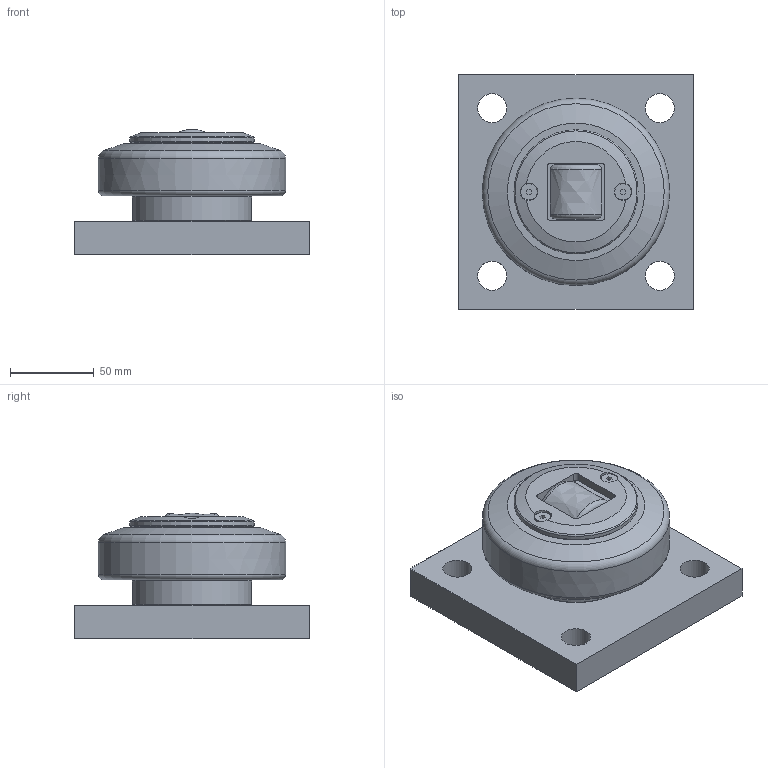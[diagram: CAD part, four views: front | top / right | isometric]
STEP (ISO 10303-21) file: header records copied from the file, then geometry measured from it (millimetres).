
FILE_DESCRIPTION(/* description */ ('-','CAx-IF Rec.Pracs.---Representation and Presentation of Product Manufacturing Information (PMI)---4.0---2014-10-13'),/* implementation_level */ '2;1');
FILE_NAME(/* name */ 'c:\temp\155c7199-bee6-4ae8-a29f-f361c3a8979f\50a08f50-3b7c-4682-8dc1-058d2edac245.stp',/* time_stamp */ '2020-04-01T16:19:02+02:00',/* author */ ('-'),/* organization */ ('NTI CADcenter A/S'),/* preprocessor_version */ 'ST-DEVELOPER v18',/* originating_system */ 'Autodesk Inventor 2020',/* authorisation */ '-');
FILE_SCHEMA (('AP242_MANAGED_MODEL_BASED_3D_ENGINEERING_MIM_LF { 1 0 10303 442 1 1 4 }'));
Length unit declared in the file: millimetre
Products named in the file (1): PT 110.0320 BQ1000_Kontur
Bounding box: 140 x 140 x 74.95 mm (x, y, z)
Volume: 747967.9 mm3; surface area: 79937.1 mm2
Topology: 1 solids, 1 shells, 82 faces, 219 edges, 148 vertices
Faces by surface type: plane 40, cylinder 24, cone 11, torus 5, bspline 2
Full cylindrical faces by diameter (mm): 9.75 x2, 10.5 x2, 17.294 x4, 70.5 x1, 71 x1, 71.6 x1, 74 x1
Entity records: 2760 total; most frequent: CARTESIAN_POINT 594, DIRECTION 457, ORIENTED_EDGE 438, EDGE_CURVE 219, AXIS2_PLACEMENT_3D 173, VERTEX_POINT 148, LINE 111, VECTOR 111
